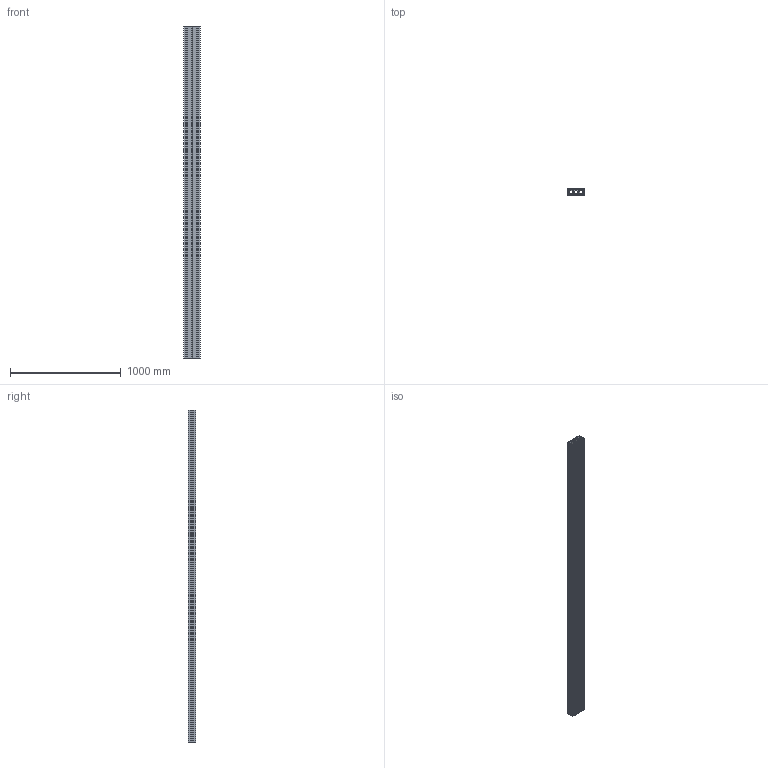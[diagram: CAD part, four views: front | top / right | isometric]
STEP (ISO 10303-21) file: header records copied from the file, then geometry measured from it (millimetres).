
FILE_DESCRIPTION (( 'STEP AP203' ), '1' );
FILE_NAME ('Rechteckprofil RE 65x150 - ArtNr 201034 3000.STEP', '2013-02-07T09:10:41', ( 'test' ), ( 'Microsoft' ), 'SwSTEP 2.0', 'SolidWorks 2012', '' );
FILE_SCHEMA (( 'CONFIG_CONTROL_DESIGN' ));
Length unit declared in the file: millimetre
Products named in the file (1): Rechteckprofil RE 65x150 - ArtNr 201034 3000
Bounding box: 149.5 x 65 x 3000 mm (x, y, z)
Volume: 8584002.9 mm3; surface area: 5382930.2 mm2
Topology: 1 solids, 1 shells, 318 faces, 948 edges, 632 vertices
Faces by surface type: plane 212, cylinder 106
Entity records: 10785 total; most frequent: CARTESIAN_POINT 1899, ORIENTED_EDGE 1896, DIRECTION 1798, EDGE_CURVE 948, VECTOR 736, LINE 736, VERTEX_POINT 632, AXIS2_PLACEMENT_3D 531
